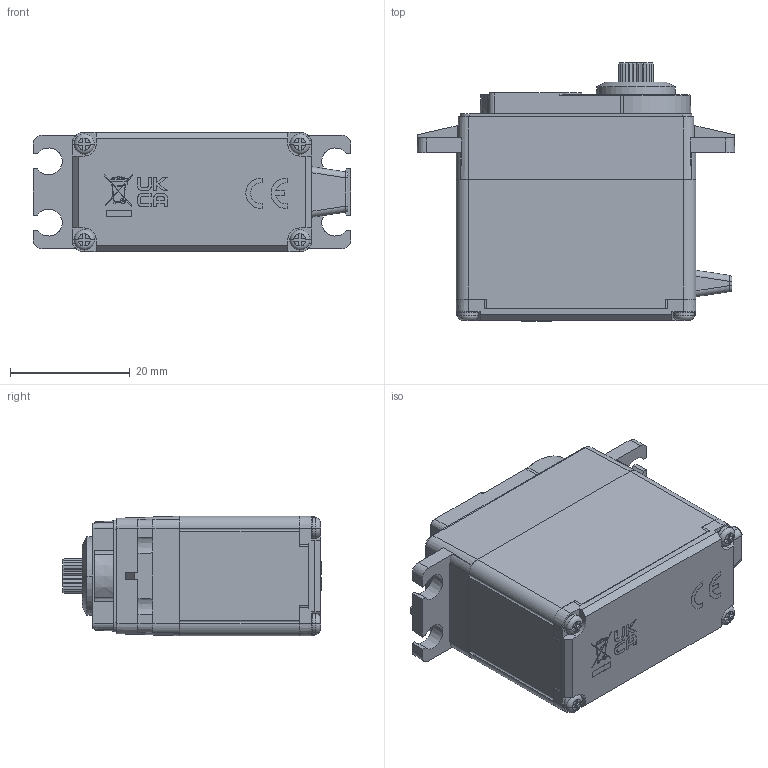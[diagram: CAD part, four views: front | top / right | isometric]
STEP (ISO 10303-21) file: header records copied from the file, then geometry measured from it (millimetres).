
FILE_DESCRIPTION((''),'2;1');
FILE_NAME('HS-5485HB_REPEAT_ASSY_ASM','2023-04-24T',('Kil'),(''),'CREO PARAMETRIC BY PTC INC, 2016050','CREO PARAMETRIC BY PTC INC, 2016050','');
FILE_SCHEMA(('CONFIG_CONTROL_DESIGN'));
Products named in the file (9): HS5485M-R_PBT_120101020162; HS5485T-R_PBT_120101010179; HS5485L-R_PBT_120101030168; 5485G4_HD_120212000604; HS5485G4-RN_ASM; WP_3P_BUSHING_120105020030; 120201000037_18A_CPHT2_2XL30; PLATE_HS-5565MH_120104010097; HS-5485HB_REPEAT_ASSY_ASM
Assembly tree (11 placements, depth 3):
  HS-5485HB_REPEAT_ASSY_ASM
    HS5485M-R_PBT_120101020162
    HS5485T-R_PBT_120101010179
    HS5485L-R_PBT_120101030168
    HS5485G4-RN_ASM
      5485G4_HD_120212000604
    WP_3P_BUSHING_120105020030
    120201000037_18A_CPHT2_2XL30  x4
    PLATE_HS-5565MH_120104010097
Bounding box: 53 x 43.05 x 20 mm (x, y, z)
Volume: 29511.7 mm3; surface area: 12733.1 mm2
Topology: 10 solids, 10 shells, 2320 faces, 6416 edges, 4228 vertices
Faces by surface type: plane 1616, cylinder 290, extrusion 248, cone 82, bspline 50, torus 34
Entity records: 88249 total; most frequent: CARTESIAN_POINT 17308, ORIENTED_EDGE 11584, DIRECTION 9498, PRESENTATION_STYLE_ASSIGNMENT 5854, STYLED_ITEM 5806, CURVE_STYLE 5792, EDGE_CURVE 5792, VECTOR 4924
